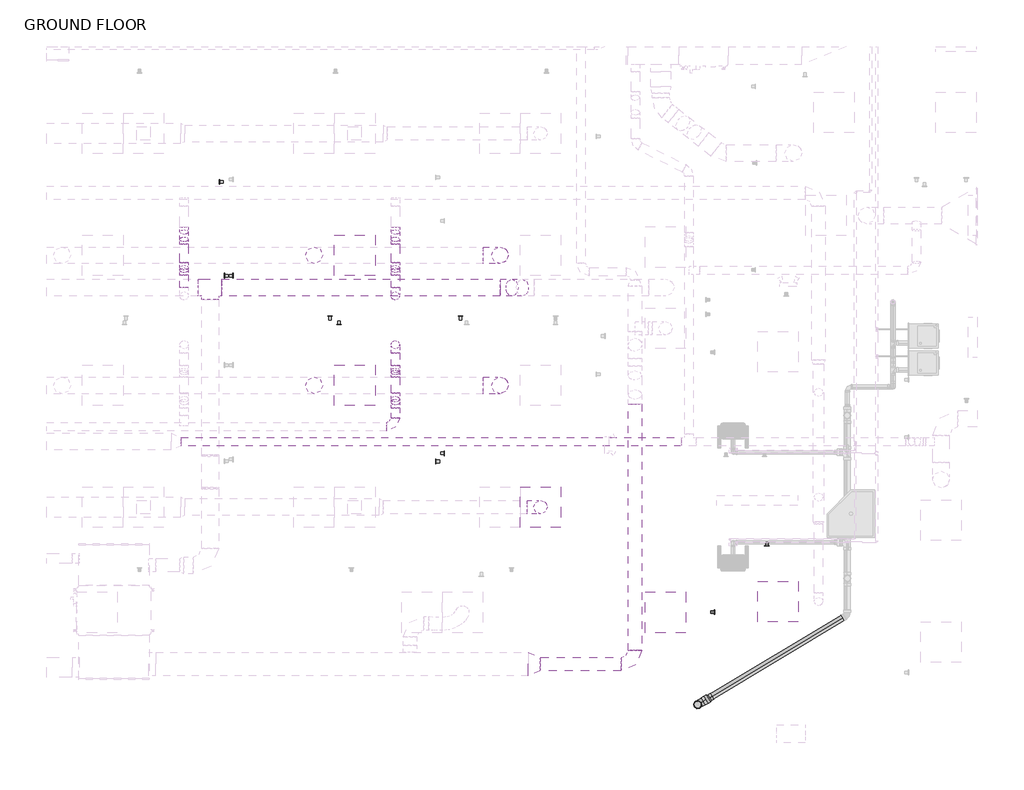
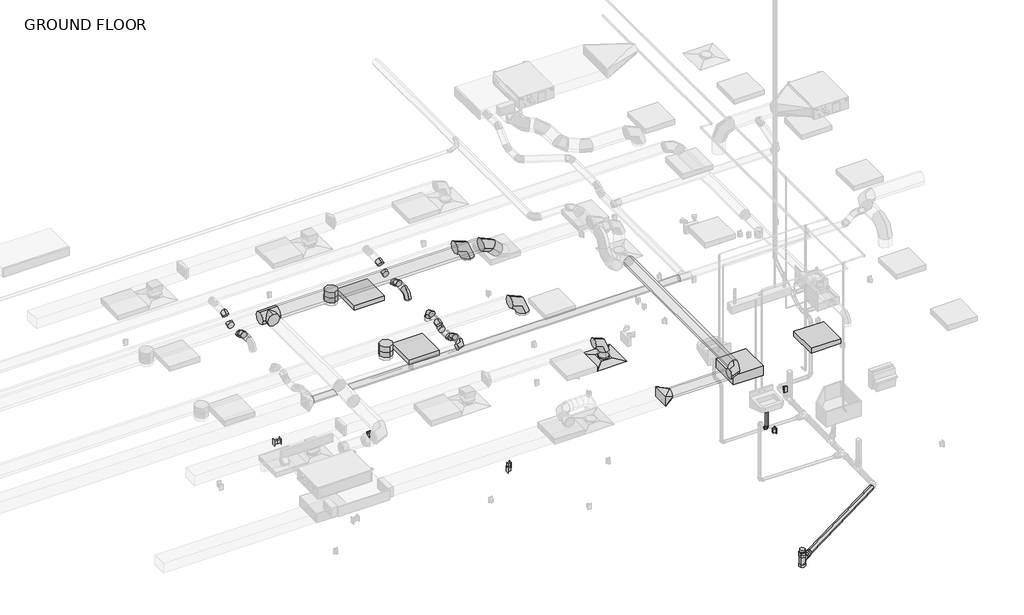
# One storey, part 6 of 22: 25 duct segments, 24 duct fittings, 7 proxies, 4 light fixtures, 4 pipe fittings, 2 electric appliances, 2 pipe segments, 1 air terminal, 1 switching device.
"""IFC4 building model written with IfcOpenShell, lengths in millimetres."""

from ifc_helpers import new_model, si_unit, point, frame, frame_2d, origin, place, context, project, spatial, circle_curve, trimmed, segment, composite_curve, outline, extrude, transform, mapped, element, save
from components import air_terminal_e9020785, duplex_receptacle_countertop_10251bba, rectangular_to_round_transition_angle_45_degree_3a9c6b82, round_elbow_1_d_a253342a, round_elbow_1_d_6fec3262, round_elbow_1_d_c80420c1, round_elbow_1_d_e3dc691b, round_elbow_1_d_ea3dccb8, round_elbow_1_d_538d8ec8, round_elbow_1_d_88736f48, round_takeoff_standard_c386a54e, round_takeoff_standard_c5a1f659, round_tee_standard_9beeffc8, telephone_outlet_data_plain_18c24199, troffer_corner_insert_2x2_3_lamp_emergency_29e3a813, troffer_corner_insert_2x2_3lamp_e67c7f8f, bend_pvc_sch_40_dwv_standard_56513ac6, reducer_pvc_sch_40_dwv_standard_58c00515, reducer_pvc_sch_40_dwv_standard_880e498f, tee_sanitary_pvc_sch_40_dwv_standard_6eba9932

model = new_model("IFC4")

# Units and contexts
model_context = context("Model", 3, world=origin())
ifc_project = project(units=[si_unit("LENGTHUNIT", "METRE", prefix="MILLI")], contexts=[model_context])

# Site, building, storey
site = spatial("IfcSite", under=ifc_project)
building = spatial("IfcBuilding", under=site)
storey = spatial("IfcBuildingStorey", under=building, Name="GROUND FLOOR", Elevation=30480.0)

# Air terminal
placement = place(None, origin())
air_terminal_shape = air_terminal_e9020785(model_context)
element("IfcAirTerminal", 1, ObjectType="Supply Diffuser - Rectangular Face Round Neck - Hosted : 24\"x24\" Face 8\" Neck - Hosted", at=placement, inside=storey, context=model_context, shape_type="MappedRepresentation", body=[
    mapped(air_terminal_shape, transform((8335.3295393, -4228.1054995, 33223.2), x_axis=(0.0, -1.0, 0.0), y_axis=(-1.0, 0.0, 0.0), z_axis=(0.0, 0.0, -1.0))),
])

# Proxies
duplex_receptacle_countertop_shape = duplex_receptacle_countertop_10251bba(model_context)
element("IfcBuildingElementProxy", 2, Name="Duplex Receptacle : Countertop", ObjectType="Duplex Receptacle : Countertop", at=placement, inside=storey, context=model_context, shape_type="MappedRepresentation", body=[
    mapped(duplex_receptacle_countertop_shape, transform((3715.7045393, -751.4804995, 30937.2), x_axis=(0.0, 1.0, 0.0), y_axis=(0.0, 0.0, 1.0), z_axis=(1.0, 0.0, 0.0))),
])
element("IfcBuildingElementProxy", 3, Name="Duplex Receptacle : Countertop", ObjectType="Duplex Receptacle : Countertop", at=placement, inside=storey, context=model_context, shape_type="MappedRepresentation", body=[
    mapped(duplex_receptacle_countertop_shape, transform((3591.8795393, -751.4804995, 30937.2), x_axis=(0.0, -1.0, 0.0), y_axis=(0.0, 0.0, 1.0), z_axis=(-1.0, 0.0, 0.0))),
])
element("IfcBuildingElementProxy", 4, Name="Duplex Receptacle : GFCI", ObjectType="Duplex Receptacle : GFCI", at=placement, inside=storey, context=model_context, shape_type="MappedRepresentation", body=[
    mapped(duplex_receptacle_countertop_shape, transform((11730.8076286, -4809.1304995, 31699.2), x_axis=(1.0, 0.0, 0.0), y_axis=(0.0, 0.0, 1.0), z_axis=(0.0, -1.0, 0.0))),
])
element("IfcBuildingElementProxy", 5, Name="Duplex Receptacle : Standard", ObjectType="Duplex Receptacle : Standard", at=placement, inside=storey, context=model_context, shape_type="MappedRepresentation", body=[
    mapped(duplex_receptacle_countertop_shape, transform((5306.9139298, -1484.9054995, 30937.2), x_axis=(1.0, 0.0, 0.0), y_axis=(0.0, 0.0, 1.0), z_axis=(0.0, -1.0, 0.0))),
])
element("IfcBuildingElementProxy", 6, Name="Duplex Receptacle : Standard", ObjectType="Duplex Receptacle : Standard", at=placement, inside=storey, context=model_context, shape_type="MappedRepresentation", body=[
    mapped(duplex_receptacle_countertop_shape, transform((6763.7045393, -3542.8977984, 30937.2), x_axis=(0.0, -1.0, 0.0), y_axis=(0.0, 0.0, 1.0), z_axis=(-1.0, 0.0, 0.0))),
])
element("IfcBuildingElementProxy", 7, Name="Duplex Receptacle : Standard", ObjectType="Duplex Receptacle : Standard", at=placement, inside=storey, context=model_context, shape_type="MappedRepresentation", body=[
    mapped(duplex_receptacle_countertop_shape, transform((6887.5295393, -3421.6832557, 30937.2), x_axis=(0.0, 1.0, 0.0), y_axis=(0.0, 0.0, 1.0), z_axis=(1.0, 0.0, 0.0))),
])
element("IfcBuildingElementProxy", 8, Name="Duplex Receptacle : Standard", ObjectType="Duplex Receptacle : Standard", at=placement, inside=storey, context=model_context, shape_type="MappedRepresentation", body=[
    mapped(duplex_receptacle_countertop_shape, transform((5174.6798832, -1361.0804995, 30937.2), x_axis=(-1.0, 0.0, 0.0), y_axis=(0.0, 0.0, 1.0), z_axis=(0.0, 1.0, 0.0))),
])

# Duct fittings
rectangular_to_round_transition_angle_45_degree_shape = rectangular_to_round_transition_angle_45_degree_3a9c6b82(model_context)
element("IfcDuctFitting", 9, ObjectType="Rectangular to Round Transition - Angle : 45 Degree", at=placement, inside=storey, context=model_context, shape_type="MappedRepresentation", body=[
    mapped(rectangular_to_round_transition_angle_45_degree_shape, transform((8148.4082034, -6584.4850038, 33877.25), x_axis=(1.0, 0.0, 0.0), y_axis=(0.0, 1.0, 0.0), z_axis=(0.0, 0.0, 1.0))),
])
round_elbow_1_d_shape = round_elbow_1_d_a253342a(model_context)
element("IfcDuctFitting", 10, ObjectType="Round Elbow : 1 D", at=placement, inside=storey, context=model_context, shape_type="MappedRepresentation", body=[
    mapped(round_elbow_1_d_shape, transform((9751.3795393, -6584.4850038, 33877.25), x_axis=(1.0, 0.0, 0.0), y_axis=(0.0, 1.0, 0.0), z_axis=(0.0, 0.0, 1.0))),
])
element("IfcDuctFitting", 11, ObjectType="Round Elbow : 1 D", at=placement, inside=storey, context=model_context, shape_type="MappedRepresentation", body=[
    mapped(round_elbow_1_d_shape, transform((8335.3295393, -4228.1054995, 33604.2), x_axis=(0.0, 0.0, 1.0), y_axis=(-1.0, 0.0, 0.0), z_axis=(0.0, -1.0, 0.0))),
])
round_elbow_1_d_2_shape = round_elbow_1_d_6fec3262(model_context)
element("IfcDuctFitting", 12, ObjectType="Round Elbow : 1 D", at=placement, inside=storey, context=model_context, shape_type="MappedRepresentation", body=[
    mapped(round_elbow_1_d_2_shape, transform((7725.7295393, -2399.3054995, 33617.69375), x_axis=(0.0, 0.0, 1.0), y_axis=(-1.0, 0.0, 0.0), z_axis=(0.0, -1.0, 0.0))),
])
element("IfcDuctFitting", 13, ObjectType="Round Elbow : 1 D", at=placement, inside=storey, context=model_context, shape_type="MappedRepresentation", body=[
    mapped(round_elbow_1_d_2_shape, transform((7725.7295393, -446.6804995, 33617.69375), x_axis=(0.0, 0.0, 1.0), y_axis=(-1.0, 0.0, 0.0), z_axis=(0.0, -1.0, 0.0))),
])
round_elbow_1_d_3_shape = round_elbow_1_d_c80420c1(model_context)
element("IfcDuctFitting", 14, ObjectType="Round Elbow : 1 D", at=placement, inside=storey, context=model_context, shape_type="MappedRepresentation", body=[
    mapped(round_elbow_1_d_3_shape, transform((6154.1045393, -1789.7054995, 33528.0), x_axis=(0.0, 0.0, 1.0), y_axis=(0.0, -1.0, 0.0), z_axis=(1.0, 0.0, 0.0))),
])
element("IfcDuctFitting", 15, ObjectType="Round Elbow : 1 D", at=placement, inside=storey, context=model_context, shape_type="MappedRepresentation", body=[
    mapped(round_elbow_1_d_3_shape, transform((6154.1045393, -1056.2804995, 33477.2), x_axis=(0.0, -1.0, 0.0), y_axis=(0.0, 0.0, -1.0), z_axis=(1.0, 0.0, 0.0))),
])
element("IfcDuctFitting", 16, ObjectType="Round Elbow : 1 D", at=placement, inside=storey, context=model_context, shape_type="MappedRepresentation", body=[
    mapped(round_elbow_1_d_3_shape, transform((6154.1045393, -3019.0145579, 33528.0), x_axis=(1.0, 0.0, 0.0), y_axis=(0.0, 1.0, 0.0), z_axis=(0.0, 0.0, 1.0))),
])
round_elbow_1_d_4_shape = round_elbow_1_d_e3dc691b(model_context)
element("IfcDuctFitting", 17, ObjectType="Round Elbow : 1 D", at=placement, inside=storey, context=model_context, shape_type="MappedRepresentation", body=[
    mapped(round_elbow_1_d_4_shape, transform((6154.1045393, -2571.0260053, 33410.2114474), x_axis=(0.0, 0.7071067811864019, -0.7071067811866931), y_axis=(0.0, 0.7071067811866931, 0.7071067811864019), z_axis=(1.0, 0.0, 0.0))),
])
element("IfcDuctFitting", 18, ObjectType="Round Elbow : 1 D", at=placement, inside=storey, context=model_context, shape_type="MappedRepresentation", body=[
    mapped(round_elbow_1_d_4_shape, transform((6154.1045393, -2688.8145579, 33528.0), x_axis=(0.0, -0.7071067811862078, 0.7071067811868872), y_axis=(0.0, -0.7071067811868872, -0.7071067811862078), z_axis=(1.0, 0.0, 0.0))),
])
round_elbow_1_d_5_shape = round_elbow_1_d_ea3dccb8(model_context)
element("IfcDuctFitting", 19, ObjectType="Round Elbow : 1 D", at=placement, inside=storey, context=model_context, shape_type="MappedRepresentation", body=[
    mapped(round_elbow_1_d_5_shape, transform((7831.7019534, -932.4554995, 33883.6), x_axis=(1.0, 0.0, 0.0), y_axis=(0.0, 0.0, -1.0), z_axis=(0.0, 1.0, 0.0))),
])
round_elbow_1_d_6_shape = round_elbow_1_d_538d8ec8(model_context)
element("IfcDuctFitting", 20, ObjectType="Round Elbow : 1 D", at=placement, inside=storey, context=model_context, shape_type="MappedRepresentation", body=[
    mapped(round_elbow_1_d_6_shape, transform((2982.2795393, -703.4357216, 33477.2), x_axis=(0.0, 1.0, 0.0), y_axis=(0.0, 0.0, -1.0), z_axis=(-1.0, 0.0, 0.0))),
])
element("IfcDuctFitting", 21, ObjectType="Round Elbow : 1 D", at=placement, inside=storey, context=model_context, shape_type="MappedRepresentation", body=[
    mapped(round_elbow_1_d_6_shape, transform((2982.2795393, -599.403412, 33404.3557926), x_axis=(0.0, 0.8191520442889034, -0.5735764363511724), y_axis=(0.0, 0.5735764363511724, 0.8191520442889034), z_axis=(1.0, 0.0, 0.0))),
])
element("IfcDuctFitting", 22, ObjectType="Round Elbow : 1 D", at=placement, inside=storey, context=model_context, shape_type="MappedRepresentation", body=[
    mapped(round_elbow_1_d_6_shape, transform((2982.2795393, -240.3054995, 33404.3557926), x_axis=(0.0, 1.0, 0.0), y_axis=(0.0, 0.0, 1.0), z_axis=(1.0, 0.0, 0.0))),
])
element("IfcDuctFitting", 23, ObjectType="Round Elbow : 1 D", at=placement, inside=storey, context=model_context, shape_type="MappedRepresentation", body=[
    mapped(round_elbow_1_d_6_shape, transform((2982.2795393, -63.7232711, 33528.0), x_axis=(0.0, 0.8191520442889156, 0.5735764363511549), y_axis=(0.0, 0.5735764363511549, -0.8191520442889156), z_axis=(-1.0, 0.0, 0.0))),
])
element("IfcDuctFitting", 24, ObjectType="Round Elbow : 1 D", at=placement, inside=storey, context=model_context, shape_type="MappedRepresentation", body=[
    mapped(round_elbow_1_d_6_shape, transform((6154.1045393, -703.4357216, 33477.2), x_axis=(0.0, 1.0, 0.0), y_axis=(0.0, 0.0, -1.0), z_axis=(-1.0, 0.0, 0.0))),
])
element("IfcDuctFitting", 25, ObjectType="Round Elbow : 1 D", at=placement, inside=storey, context=model_context, shape_type="MappedRepresentation", body=[
    mapped(round_elbow_1_d_6_shape, transform((6154.1045393, -599.403412, 33404.3557926), x_axis=(0.0, 0.8191520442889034, -0.5735764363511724), y_axis=(0.0, 0.5735764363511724, 0.8191520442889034), z_axis=(1.0, 0.0, 0.0))),
])
element("IfcDuctFitting", 26, ObjectType="Round Elbow : 1 D", at=placement, inside=storey, context=model_context, shape_type="MappedRepresentation", body=[
    mapped(round_elbow_1_d_6_shape, transform((6154.1045393, -240.3054995, 33404.3557926), x_axis=(0.0, 1.0, 0.0), y_axis=(0.0, 0.0, 1.0), z_axis=(1.0, 0.0, 0.0))),
])
element("IfcDuctFitting", 27, ObjectType="Round Elbow : 1 D", at=placement, inside=storey, context=model_context, shape_type="MappedRepresentation", body=[
    mapped(round_elbow_1_d_6_shape, transform((6154.1045393, -63.7232711, 33528.0), x_axis=(0.0, 0.8191520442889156, 0.5735764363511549), y_axis=(0.0, 0.5735764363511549, -0.8191520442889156), z_axis=(-1.0, 0.0, 0.0))),
])
element("IfcDuctFitting", 28, ObjectType="Round Elbow : 1 D", at=placement, inside=storey, context=model_context, shape_type="MappedRepresentation", body=[
    mapped(round_elbow_1_d_6_shape, transform((6154.1045393, -2238.2198452, 33410.2114474), x_axis=(0.0, -0.8191520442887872, -0.5735764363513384), y_axis=(0.0, -0.5735764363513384, 0.8191520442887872), z_axis=(-1.0, 0.0, 0.0))),
])
round_elbow_1_d_7_shape = round_elbow_1_d_88736f48(model_context)
element("IfcDuctFitting", 29, ObjectType="Round Elbow : 1 D", at=placement, inside=storey, context=model_context, shape_type="MappedRepresentation", body=[
    mapped(round_elbow_1_d_7_shape, transform((6154.1045393, -2142.5502773, 33477.2), x_axis=(0.0, -1.0, 0.0), y_axis=(0.0, 0.0, 1.0), z_axis=(-1.0, 0.0, 0.0))),
])
round_takeoff_standard_shape = round_takeoff_standard_c386a54e(model_context)
element("IfcDuctFitting", 30, ObjectType="Round Takeoff : Standard", at=placement, inside=storey, context=model_context, shape_type="MappedRepresentation", body=[
    mapped(round_takeoff_standard_shape, transform((4934.9045393, -446.6804995, 33490.69375), x_axis=(0.0, 0.0, -1.0), y_axis=(-1.0, 0.0, 0.0), z_axis=(0.0, 1.0, 0.0))),
])
round_takeoff_standard_2_shape = round_takeoff_standard_c5a1f659(model_context)
element("IfcDuctFitting", 31, ObjectType="Round Takeoff : Standard", at=placement, inside=storey, context=model_context, shape_type="MappedRepresentation", body=[
    mapped(round_takeoff_standard_2_shape, transform((4934.9045393, -2399.3054995, 33490.69375), x_axis=(0.0, 0.0, -1.0), y_axis=(-1.0, 0.0, 0.0), z_axis=(0.0, 1.0, 0.0))),
])
round_tee_standard_shape = round_tee_standard_9beeffc8(model_context)
element("IfcDuctFitting", 32, ObjectType="Round Tee : Standard", at=placement, inside=storey, context=model_context, shape_type="MappedRepresentation", body=[
    mapped(round_tee_standard_shape, transform((3373.2082034, -932.4554995, 33883.6), x_axis=(1.0, 0.0, 0.0), y_axis=(0.0, 1.0, 0.0), z_axis=(0.0, 0.0, 1.0))),
])

# Duct segments
element("IfcDuctSegment", 33, ObjectType="Taps / Short Radius", at=placement, inside=storey, context=model_context, shape_type="SweptSolid", body=[
    extrude(outline(composite_curve([segment(trimmed(circle_curve(frame_2d((-6584.4850038, 33877.25)), 101.6), [point((-6686.0850038, 33877.25))], [point((-6584.4850038, 33978.85))], False, "CARTESIAN"), True, "CONTINUOUS"), segment(trimmed(circle_curve(frame_2d((-6584.4850038, 33877.25)), 101.6), [point((-6584.4850038, 33978.85))], [point((-6482.8850038, 33877.25))], False, "CARTESIAN"), True, "CONTINUOUS"), segment(trimmed(circle_curve(frame_2d((-6584.4850038, 33877.25)), 101.6), [point((-6482.8850038, 33877.25))], [point((-6584.4850038, 33775.65))], False, "CARTESIAN"), True, "CONTINUOUS"), segment(trimmed(circle_curve(frame_2d((-6584.4850038, 33877.25)), 101.6), [point((-6584.4850038, 33775.65))], [point((-6686.0850038, 33877.25))], False, "CARTESIAN"), True, "CONTINUOUS")], self_intersect=False)), frame((8332.3712769, 0.0, 0.0), z_axis=(1.0, 0.0, 0.0), x_axis=(0.0, 1.0, 0.0)), (0.0, 0.0, 1.0), 1215.8082624),
])
element("IfcDuctSegment", 34, ObjectType="Taps / Short Radius", at=placement, inside=storey, context=model_context, shape_type="SweptSolid", body=[
    extrude(outline(composite_curve([segment(trimmed(circle_curve(frame_2d((8335.3295393, -4228.1054995)), 101.6), [point((8335.3295393, -4126.5054995))], [point((8436.9295393, -4228.1054995))], False, "CARTESIAN"), True, "CONTINUOUS"), segment(trimmed(circle_curve(frame_2d((8335.3295393, -4228.1054995)), 101.6), [point((8436.9295393, -4228.1054995))], [point((8335.3295393, -4329.7054995))], False, "CARTESIAN"), True, "CONTINUOUS"), segment(trimmed(circle_curve(frame_2d((8335.3295393, -4228.1054995)), 101.6), [point((8335.3295393, -4329.7054995))], [point((8233.7295393, -4228.1054995))], False, "CARTESIAN"), True, "CONTINUOUS"), segment(trimmed(circle_curve(frame_2d((8335.3295393, -4228.1054995)), 101.6), [point((8233.7295393, -4228.1054995))], [point((8335.3295393, -4126.5054995))], False, "CARTESIAN"), True, "CONTINUOUS")], self_intersect=False)), frame((0.0, 0.0, 33277.175), z_axis=(0.0, 0.0, 1.0), x_axis=(1.0, 0.0, 0.0)), (0.0, 0.0, 1.0), 123.825),
])
element("IfcDuctSegment", 35, ObjectType="Taps / Short Radius", at=placement, inside=storey, context=model_context, shape_type="SweptSolid", body=[
    extrude(outline(composite_curve([segment(trimmed(circle_curve(frame_2d((-932.4554995, 33883.6)), 127.0), [point((-1059.4554995, 33883.6))], [point((-932.4554995, 34010.6))], False, "CARTESIAN"), True, "CONTINUOUS"), segment(trimmed(circle_curve(frame_2d((-932.4554995, 33883.6)), 127.0), [point((-932.4554995, 34010.6))], [point((-805.4554995, 33883.6))], False, "CARTESIAN"), True, "CONTINUOUS"), segment(trimmed(circle_curve(frame_2d((-932.4554995, 33883.6)), 127.0), [point((-805.4554995, 33883.6))], [point((-932.4554995, 33756.6))], False, "CARTESIAN"), True, "CONTINUOUS"), segment(trimmed(circle_curve(frame_2d((-932.4554995, 33883.6)), 127.0), [point((-932.4554995, 33756.6))], [point((-1059.4554995, 33883.6))], False, "CARTESIAN"), True, "CONTINUOUS")], self_intersect=False)), frame((3551.0082034, 0.0, 0.0), z_axis=(1.0, 0.0, 0.0), x_axis=(0.0, 1.0, 0.0)), (0.0, 0.0, 1.0), 4175.4835052),
])
element("IfcDuctSegment", 36, ObjectType="Taps / Short Radius", at=placement, inside=storey, context=model_context, shape_type="SweptSolid", body=[
    extrude(outline(composite_curve([segment(trimmed(circle_curve(frame_2d((0.0, -127.0)), 127.0), [point((0.0, -254.0))], [point((-127.0, -127.0))], False, "CARTESIAN"), True, "CONTINUOUS"), segment(trimmed(circle_curve(frame_2d((0.0, -127.0)), 127.0), [point((-127.0, -127.0))], [point((0.0, 0.0))], False, "CARTESIAN"), True, "CONTINUOUS"), segment(trimmed(circle_curve(frame_2d((0.0, -127.0)), 127.0), [point((0.0, 0.0))], [point((127.0, -127.0))], False, "CARTESIAN"), True, "CONTINUOUS"), segment(trimmed(circle_curve(frame_2d((0.0, -127.0)), 127.0), [point((127.0, -127.0))], [point((0.0, -254.0))], False, "CARTESIAN"), True, "CONTINUOUS")], self_intersect=False)), frame((8062.1070759, -805.4554995, 33653.1948776), z_axis=(-0.7071067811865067, 0.0, 0.7071067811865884), x_axis=(0.7071067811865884, 0.0, 0.7071067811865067)), (0.0, 0.0, 1.0), 220.6318041),
])
element("IfcDuctSegment", 37, ObjectType="Taps / Short Radius", at=placement, inside=storey, context=model_context, shape_type="SweptSolid", body=[
    extrude(outline(composite_curve([segment(trimmed(circle_curve(frame_2d((4934.9045393, -2399.3054995)), 127.0), [point((4807.9045393, -2399.3054995))], [point((4934.9045393, -2272.3054995))], False, "CARTESIAN"), True, "CONTINUOUS"), segment(trimmed(circle_curve(frame_2d((4934.9045393, -2399.3054995)), 127.0), [point((4934.9045393, -2272.3054995))], [point((5061.9045393, -2399.3054995))], False, "CARTESIAN"), True, "CONTINUOUS"), segment(trimmed(circle_curve(frame_2d((4934.9045393, -2399.3054995)), 127.0), [point((5061.9045393, -2399.3054995))], [point((4934.9045393, -2526.3054995))], False, "CARTESIAN"), True, "CONTINUOUS"), segment(trimmed(circle_curve(frame_2d((4934.9045393, -2399.3054995)), 127.0), [point((4934.9045393, -2526.3054995))], [point((4807.9045393, -2399.3054995))], False, "CARTESIAN"), True, "CONTINUOUS")], self_intersect=False)), frame((0.0, 0.0, 33324.8), z_axis=(0.0, 0.0, 1.0), x_axis=(1.0, 0.0, 0.0)), (0.0, 0.0, 1.0), 64.29375),
])
element("IfcDuctSegment", 38, ObjectType="Taps / Short Radius", at=placement, inside=storey, context=model_context, shape_type="SweptSolid", body=[
    extrude(outline(composite_curve([segment(trimmed(circle_curve(frame_2d((7725.7295393, -2399.3054995)), 127.0), [point((7725.7295393, -2272.3054995))], [point((7852.7295393, -2399.3054995))], False, "CARTESIAN"), True, "CONTINUOUS"), segment(trimmed(circle_curve(frame_2d((7725.7295393, -2399.3054995)), 127.0), [point((7852.7295393, -2399.3054995))], [point((7725.7295393, -2526.3054995))], False, "CARTESIAN"), True, "CONTINUOUS"), segment(trimmed(circle_curve(frame_2d((7725.7295393, -2399.3054995)), 127.0), [point((7725.7295393, -2526.3054995))], [point((7598.7295393, -2399.3054995))], False, "CARTESIAN"), True, "CONTINUOUS"), segment(trimmed(circle_curve(frame_2d((7725.7295393, -2399.3054995)), 127.0), [point((7598.7295393, -2399.3054995))], [point((7725.7295393, -2272.3054995))], False, "CARTESIAN"), True, "CONTINUOUS")], self_intersect=False)), frame((0.0, 0.0, 33324.8), z_axis=(0.0, 0.0, 1.0), x_axis=(1.0, 0.0, 0.0)), (0.0, 0.0, 1.0), 38.89375),
])
element("IfcDuctSegment", 39, ObjectType="Taps / Short Radius", at=placement, inside=storey, context=model_context, shape_type="SweptSolid", body=[
    extrude(outline(composite_curve([segment(trimmed(circle_curve(frame_2d((7725.7295393, -446.6804995)), 127.0), [point((7725.7295393, -319.6804995))], [point((7852.7295393, -446.6804995))], False, "CARTESIAN"), True, "CONTINUOUS"), segment(trimmed(circle_curve(frame_2d((7725.7295393, -446.6804995)), 127.0), [point((7852.7295393, -446.6804995))], [point((7725.7295393, -573.6804995))], False, "CARTESIAN"), True, "CONTINUOUS"), segment(trimmed(circle_curve(frame_2d((7725.7295393, -446.6804995)), 127.0), [point((7725.7295393, -573.6804995))], [point((7598.7295393, -446.6804995))], False, "CARTESIAN"), True, "CONTINUOUS"), segment(trimmed(circle_curve(frame_2d((7725.7295393, -446.6804995)), 127.0), [point((7598.7295393, -446.6804995))], [point((7725.7295393, -319.6804995))], False, "CARTESIAN"), True, "CONTINUOUS")], self_intersect=False)), frame((0.0, 0.0, 33324.8), z_axis=(0.0, 0.0, 1.0), x_axis=(1.0, 0.0, 0.0)), (0.0, 0.0, 1.0), 38.89375),
])
element("IfcDuctSegment", 40, ObjectType="Taps / Short Radius", at=placement, inside=storey, context=model_context, shape_type="SweptSolid", body=[
    extrude(outline(composite_curve([segment(trimmed(circle_curve(frame_2d((4934.9045393, -446.6804995)), 127.0), [point((4807.9045393, -446.6804995))], [point((4934.9045393, -319.6804995))], False, "CARTESIAN"), True, "CONTINUOUS"), segment(trimmed(circle_curve(frame_2d((4934.9045393, -446.6804995)), 127.0), [point((4934.9045393, -319.6804995))], [point((5061.9045393, -446.6804995))], False, "CARTESIAN"), True, "CONTINUOUS"), segment(trimmed(circle_curve(frame_2d((4934.9045393, -446.6804995)), 127.0), [point((5061.9045393, -446.6804995))], [point((4934.9045393, -573.6804995))], False, "CARTESIAN"), True, "CONTINUOUS"), segment(trimmed(circle_curve(frame_2d((4934.9045393, -446.6804995)), 127.0), [point((4934.9045393, -573.6804995))], [point((4807.9045393, -446.6804995))], False, "CARTESIAN"), True, "CONTINUOUS")], self_intersect=False)), frame((0.0, 0.0, 33324.8), z_axis=(0.0, 0.0, 1.0), x_axis=(1.0, 0.0, 0.0)), (0.0, 0.0, 1.0), 64.29375),
])
element("IfcDuctSegment", 41, ObjectType="Taps / Short Radius", at=placement, inside=storey, context=model_context, shape_type="SweptSolid", body=[
    extrude(outline(composite_curve([segment(trimmed(circle_curve(frame_2d((-3245.6216457, 33602.867541)), 63.5), [point((-3309.1216457, 33602.867541))], [point((-3245.6216457, 33666.367541))], False, "CARTESIAN"), True, "CONTINUOUS"), segment(trimmed(circle_curve(frame_2d((-3245.6216457, 33602.867541)), 63.5), [point((-3245.6216457, 33666.367541))], [point((-3182.1216457, 33602.867541))], False, "CARTESIAN"), True, "CONTINUOUS"), segment(trimmed(circle_curve(frame_2d((-3245.6216457, 33602.867541)), 63.5), [point((-3182.1216457, 33602.867541))], [point((-3245.6216457, 33539.367541))], False, "CARTESIAN"), True, "CONTINUOUS"), segment(trimmed(circle_curve(frame_2d((-3245.6216457, 33602.867541)), 63.5), [point((-3245.6216457, 33539.367541))], [point((-3309.1216457, 33602.867541))], False, "CARTESIAN"), True, "CONTINUOUS")], self_intersect=False)), frame((2940.5577502, 0.0, 0.0), z_axis=(1.0, 0.0, 0.0), x_axis=(0.0, 1.0, 0.0)), (0.0, 0.0, 1.0), 7505.7),
])
element("IfcDuctSegment", 42, ObjectType="Taps / Short Radius", at=placement, inside=storey, context=model_context, shape_type="SweptSolid", body=[
    extrude(outline(composite_curve([segment(trimmed(circle_curve(frame_2d((6154.1045393, -1789.7054995)), 63.5), [point((6090.6045393, -1789.7054995))], [point((6154.1045393, -1726.2054995))], False, "CARTESIAN"), True, "CONTINUOUS"), segment(trimmed(circle_curve(frame_2d((6154.1045393, -1789.7054995)), 63.5), [point((6154.1045393, -1726.2054995))], [point((6217.6045393, -1789.7054995))], False, "CARTESIAN"), True, "CONTINUOUS"), segment(trimmed(circle_curve(frame_2d((6154.1045393, -1789.7054995)), 63.5), [point((6217.6045393, -1789.7054995))], [point((6154.1045393, -1853.2054995))], False, "CARTESIAN"), True, "CONTINUOUS"), segment(trimmed(circle_curve(frame_2d((6154.1045393, -1789.7054995)), 63.5), [point((6154.1045393, -1853.2054995))], [point((6090.6045393, -1789.7054995))], False, "CARTESIAN"), True, "CONTINUOUS")], self_intersect=False)), frame((0.0, 0.0, 33324.8), z_axis=(0.0, 0.0, 1.0), x_axis=(1.0, 0.0, 0.0)), (0.0, 0.0, 1.0), 76.2),
])
element("IfcDuctSegment", 43, ObjectType="Taps / Short Radius", at=placement, inside=storey, context=model_context, shape_type="SweptSolid", body=[
    extrude(outline(composite_curve([segment(trimmed(circle_curve(frame_2d((33477.2, 2982.2795393)), 63.5), [point((33477.2, 3045.7795393))], [point((33540.7, 2982.2795393))], False, "CARTESIAN"), True, "CONTINUOUS"), segment(trimmed(circle_curve(frame_2d((33477.2, 2982.2795393)), 63.5), [point((33540.7, 2982.2795393))], [point((33477.2, 2918.7795393))], False, "CARTESIAN"), True, "CONTINUOUS"), segment(trimmed(circle_curve(frame_2d((33477.2, 2982.2795393)), 63.5), [point((33477.2, 2918.7795393))], [point((33413.7, 2982.2795393))], False, "CARTESIAN"), True, "CONTINUOUS"), segment(trimmed(circle_curve(frame_2d((33477.2, 2982.2795393)), 63.5), [point((33413.7, 2982.2795393))], [point((33477.2, 3045.7795393))], False, "CARTESIAN"), True, "CONTINUOUS")], self_intersect=False)), frame((0.0, -929.2804995, 0.0), z_axis=(0.0, 1.0, 0.0), x_axis=(0.0, 0.0, 1.0)), (0.0, 0.0, 1.0), 185.8018317),
])
element("IfcDuctSegment", 44, ObjectType="Taps / Short Radius", at=placement, inside=storey, context=model_context, shape_type="SweptSolid", body=[
    extrude(outline(composite_curve([segment(trimmed(circle_curve(frame_2d((0.0, -63.5)), 63.5), [point((63.5, -63.5))], [point((0.0, -127.0000001))], False, "CARTESIAN"), True, "CONTINUOUS"), segment(trimmed(circle_curve(frame_2d((0.0, -63.5)), 63.5), [point((0.0, -127.0000001))], [point((-63.5, -63.5))], False, "CARTESIAN"), True, "CONTINUOUS"), segment(trimmed(circle_curve(frame_2d((0.0, -63.5)), 63.5), [point((-63.5, -63.5))], [point((0.0, 0.0))], False, "CARTESIAN"), True, "CONTINUOUS"), segment(trimmed(circle_curve(frame_2d((0.0, -63.5)), 63.5), [point((0.0, 0.0))], [point((63.5, -63.5))], False, "CARTESIAN"), True, "CONTINUOUS")], self_intersect=False)), frame((2982.2795393, -595.7825695, 33479.3396378), z_axis=(0.0, -0.8191520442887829, 0.5735764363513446), x_axis=(1.0, 0.0, 0.0)), (0.0, 0.0, 1.0), 46.9141076),
])
element("IfcDuctSegment", 45, ObjectType="Taps / Short Radius", at=placement, inside=storey, context=model_context, shape_type="SweptSolid", body=[
    extrude(outline(composite_curve([segment(trimmed(circle_curve(frame_2d((33404.3557926, 2982.2795393)), 63.5), [point((33404.3557926, 3045.7795393))], [point((33467.8557926, 2982.2795393))], False, "CARTESIAN"), True, "CONTINUOUS"), segment(trimmed(circle_curve(frame_2d((33404.3557926, 2982.2795393)), 63.5), [point((33467.8557926, 2982.2795393))], [point((33404.3557926, 2918.7795393))], False, "CARTESIAN"), True, "CONTINUOUS"), segment(trimmed(circle_curve(frame_2d((33404.3557926, 2982.2795393)), 63.5), [point((33404.3557926, 2918.7795393))], [point((33340.8557926, 2982.2795393))], False, "CARTESIAN"), True, "CONTINUOUS"), segment(trimmed(circle_curve(frame_2d((33404.3557926, 2982.2795393)), 63.5), [point((33340.8557926, 2982.2795393))], [point((33404.3557926, 3045.7795393))], False, "CARTESIAN"), True, "CONTINUOUS")], self_intersect=False)), frame((0.0, -559.3604658, 0.0), z_axis=(0.0, 1.0, 0.0), x_axis=(0.0, 0.0, 1.0)), (0.0, 0.0, 1.0), 279.0120202),
])
element("IfcDuctSegment", 46, ObjectType="Taps / Short Radius", at=placement, inside=storey, context=model_context, shape_type="SweptSolid", body=[
    extrude(outline(composite_curve([segment(trimmed(circle_curve(frame_2d((0.0, 63.5)), 63.5), [point((63.5, 63.5))], [point((0.0, 0.0))], False, "CARTESIAN"), True, "CONTINUOUS"), segment(trimmed(circle_curve(frame_2d((0.0, 63.5)), 63.5), [point((0.0, 0.0))], [point((-63.5, 63.5))], False, "CARTESIAN"), True, "CONTINUOUS"), segment(trimmed(circle_curve(frame_2d((0.0, 63.5)), 63.5), [point((-63.5, 63.5))], [point((0.0, 127.0000001))], False, "CARTESIAN"), True, "CONTINUOUS"), segment(trimmed(circle_curve(frame_2d((0.0, 63.5)), 63.5), [point((0.0, 127.0000001))], [point((63.5, 63.5))], False, "CARTESIAN"), True, "CONTINUOUS")], self_intersect=False)), frame((2982.2795393, -243.926342, 33479.3396378), z_axis=(0.0, 0.81915204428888, 0.5735764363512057), x_axis=(1.0, 0.0, 0.0)), (0.0, 0.0, 1.0), 135.4812048),
])
element("IfcDuctSegment", 47, ObjectType="Taps / Short Radius", at=placement, inside=storey, context=model_context, shape_type="SweptSolid", body=[
    extrude(outline(composite_curve([segment(trimmed(circle_curve(frame_2d((6154.1045393, -1056.2804995)), 63.5), [point((6090.6045393, -1056.2804995))], [point((6154.1045393, -992.7804995))], False, "CARTESIAN"), True, "CONTINUOUS"), segment(trimmed(circle_curve(frame_2d((6154.1045393, -1056.2804995)), 63.5), [point((6154.1045393, -992.7804995))], [point((6217.6045393, -1056.2804995))], False, "CARTESIAN"), True, "CONTINUOUS"), segment(trimmed(circle_curve(frame_2d((6154.1045393, -1056.2804995)), 63.5), [point((6217.6045393, -1056.2804995))], [point((6154.1045393, -1119.7804995))], False, "CARTESIAN"), True, "CONTINUOUS"), segment(trimmed(circle_curve(frame_2d((6154.1045393, -1056.2804995)), 63.5), [point((6154.1045393, -1119.7804995))], [point((6090.6045393, -1056.2804995))], False, "CARTESIAN"), True, "CONTINUOUS")], self_intersect=False)), frame((0.0, 0.0, 33324.8), z_axis=(0.0, 0.0, 1.0), x_axis=(1.0, 0.0, 0.0)), (0.0, 0.0, 1.0), 25.4),
])
element("IfcDuctSegment", 48, ObjectType="Taps / Short Radius", at=placement, inside=storey, context=model_context, shape_type="SweptSolid", body=[
    extrude(outline(composite_curve([segment(trimmed(circle_curve(frame_2d((33477.2, 6154.1045393)), 63.5), [point((33477.2, 6217.6045393))], [point((33540.7, 6154.1045393))], False, "CARTESIAN"), True, "CONTINUOUS"), segment(trimmed(circle_curve(frame_2d((33477.2, 6154.1045393)), 63.5), [point((33540.7, 6154.1045393))], [point((33477.2, 6090.6045393))], False, "CARTESIAN"), True, "CONTINUOUS"), segment(trimmed(circle_curve(frame_2d((33477.2, 6154.1045393)), 63.5), [point((33477.2, 6090.6045393))], [point((33413.7, 6154.1045393))], False, "CARTESIAN"), True, "CONTINUOUS"), segment(trimmed(circle_curve(frame_2d((33477.2, 6154.1045393)), 63.5), [point((33413.7, 6154.1045393))], [point((33477.2, 6217.6045393))], False, "CARTESIAN"), True, "CONTINUOUS")], self_intersect=False)), frame((0.0, -929.2804995, 0.0), z_axis=(0.0, 1.0, 0.0), x_axis=(0.0, 0.0, 1.0)), (0.0, 0.0, 1.0), 185.8018317),
])
element("IfcDuctSegment", 49, ObjectType="Taps / Short Radius", at=placement, inside=storey, context=model_context, shape_type="SweptSolid", body=[
    extrude(outline(composite_curve([segment(trimmed(circle_curve(frame_2d((0.0, -63.5)), 63.5), [point((63.5, -63.5))], [point((0.0, -127.0000001))], False, "CARTESIAN"), True, "CONTINUOUS"), segment(trimmed(circle_curve(frame_2d((0.0, -63.5)), 63.5), [point((0.0, -127.0000001))], [point((-63.5, -63.5))], False, "CARTESIAN"), True, "CONTINUOUS"), segment(trimmed(circle_curve(frame_2d((0.0, -63.5)), 63.5), [point((-63.5, -63.5))], [point((0.0, 0.0))], False, "CARTESIAN"), True, "CONTINUOUS"), segment(trimmed(circle_curve(frame_2d((0.0, -63.5)), 63.5), [point((0.0, 0.0))], [point((63.5, -63.5))], False, "CARTESIAN"), True, "CONTINUOUS")], self_intersect=False)), frame((6154.1045393, -595.7825695, 33479.3396378), z_axis=(0.0, -0.8191520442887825, 0.5735764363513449), x_axis=(1.0, 0.0, 0.0)), (0.0, 0.0, 1.0), 46.9141076),
])
element("IfcDuctSegment", 50, ObjectType="Taps / Short Radius", at=placement, inside=storey, context=model_context, shape_type="SweptSolid", body=[
    extrude(outline(composite_curve([segment(trimmed(circle_curve(frame_2d((33404.3557926, 6154.1045393)), 63.5), [point((33404.3557926, 6217.6045393))], [point((33467.8557926, 6154.1045393))], False, "CARTESIAN"), True, "CONTINUOUS"), segment(trimmed(circle_curve(frame_2d((33404.3557926, 6154.1045393)), 63.5), [point((33467.8557926, 6154.1045393))], [point((33404.3557926, 6090.6045393))], False, "CARTESIAN"), True, "CONTINUOUS"), segment(trimmed(circle_curve(frame_2d((33404.3557926, 6154.1045393)), 63.5), [point((33404.3557926, 6090.6045393))], [point((33340.8557926, 6154.1045393))], False, "CARTESIAN"), True, "CONTINUOUS"), segment(trimmed(circle_curve(frame_2d((33404.3557926, 6154.1045393)), 63.5), [point((33340.8557926, 6154.1045393))], [point((33404.3557926, 6217.6045393))], False, "CARTESIAN"), True, "CONTINUOUS")], self_intersect=False)), frame((0.0, -559.3604658, 0.0), z_axis=(0.0, 1.0, 0.0), x_axis=(0.0, 0.0, 1.0)), (0.0, 0.0, 1.0), 279.0120202),
])
element("IfcDuctSegment", 51, ObjectType="Taps / Short Radius", at=placement, inside=storey, context=model_context, shape_type="SweptSolid", body=[
    extrude(outline(composite_curve([segment(trimmed(circle_curve(frame_2d((0.0, 63.5)), 63.5), [point((63.5, 63.5))], [point((0.0, 0.0))], False, "CARTESIAN"), True, "CONTINUOUS"), segment(trimmed(circle_curve(frame_2d((0.0, 63.5)), 63.5), [point((0.0, 0.0))], [point((-63.5, 63.5))], False, "CARTESIAN"), True, "CONTINUOUS"), segment(trimmed(circle_curve(frame_2d((0.0, 63.5)), 63.5), [point((-63.5, 63.5))], [point((0.0, 127.0000001))], False, "CARTESIAN"), True, "CONTINUOUS"), segment(trimmed(circle_curve(frame_2d((0.0, 63.5)), 63.5), [point((0.0, 127.0000001))], [point((63.5, 63.5))], False, "CARTESIAN"), True, "CONTINUOUS")], self_intersect=False)), frame((6154.1045393, -243.926342, 33479.3396378), z_axis=(0.0, 0.8191520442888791, 0.5735764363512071), x_axis=(1.0, 0.0, 0.0)), (0.0, 0.0, 1.0), 135.4812048),
])
element("IfcDuctSegment", 52, ObjectType="Taps / Short Radius", at=placement, inside=storey, context=model_context, shape_type="SweptSolid", body=[
    extrude(outline(composite_curve([segment(trimmed(circle_curve(frame_2d((33477.2, 6154.1045393)), 63.5), [point((33477.2, 6090.6045393))], [point((33413.7, 6154.1045393))], False, "CARTESIAN"), True, "CONTINUOUS"), segment(trimmed(circle_curve(frame_2d((33477.2, 6154.1045393)), 63.5), [point((33413.7, 6154.1045393))], [point((33477.2, 6217.6045393))], False, "CARTESIAN"), True, "CONTINUOUS"), segment(trimmed(circle_curve(frame_2d((33477.2, 6154.1045393)), 63.5), [point((33477.2, 6217.6045393))], [point((33540.7, 6154.1045393))], False, "CARTESIAN"), True, "CONTINUOUS"), segment(trimmed(circle_curve(frame_2d((33477.2, 6154.1045393)), 63.5), [point((33540.7, 6154.1045393))], [point((33477.2, 6090.6045393))], False, "CARTESIAN"), True, "CONTINUOUS")], self_intersect=False)), frame((0.0, -2102.5073311, 0.0), z_axis=(0.0, 1.0, 0.0), x_axis=(0.0, 0.0, 1.0)), (0.0, 0.0, 1.0), 185.8018317),
])
element("IfcDuctSegment", 53, ObjectType="Taps / Short Radius", at=placement, inside=storey, context=model_context, shape_type="SweptSolid", body=[
    extrude(outline(composite_curve([segment(trimmed(circle_curve(frame_2d((0.0, -63.5)), 63.5), [point((-63.5, -63.5))], [point((0.0, 0.0))], False, "CARTESIAN"), True, "CONTINUOUS"), segment(trimmed(circle_curve(frame_2d((0.0, -63.5)), 63.5), [point((0.0, 0.0))], [point((63.5, -63.5))], False, "CARTESIAN"), True, "CONTINUOUS"), segment(trimmed(circle_curve(frame_2d((0.0, -63.5)), 63.5), [point((63.5, -63.5))], [point((0.0, -127.0))], False, "CARTESIAN"), True, "CONTINUOUS"), segment(trimmed(circle_curve(frame_2d((0.0, -63.5)), 63.5), [point((0.0, -127.0))], [point((-63.5, -63.5))], False, "CARTESIAN"), True, "CONTINUOUS")], self_intersect=False)), frame((6154.1045393, -2168.9964802, 33381.162983), z_axis=(0.0, 0.819152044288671, 0.5735764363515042), x_axis=(1.0, 0.0, 0.0)), (0.0, 0.0, 1.0), 36.7050849),
])
element("IfcDuctSegment", 54, ObjectType="Taps / Short Radius", at=placement, inside=storey, context=model_context, shape_type="SweptSolid", body=[
    extrude(outline(composite_curve([segment(trimmed(circle_curve(frame_2d((33528.0, 6154.1045393)), 63.5), [point((33528.0, 6090.6045393))], [point((33464.5, 6154.1045393))], False, "CARTESIAN"), True, "CONTINUOUS"), segment(trimmed(circle_curve(frame_2d((33528.0, 6154.1045393)), 63.5), [point((33464.5, 6154.1045393))], [point((33528.0, 6217.6045393))], False, "CARTESIAN"), True, "CONTINUOUS"), segment(trimmed(circle_curve(frame_2d((33528.0, 6154.1045393)), 63.5), [point((33528.0, 6217.6045393))], [point((33591.5, 6154.1045393))], False, "CARTESIAN"), True, "CONTINUOUS"), segment(trimmed(circle_curve(frame_2d((33528.0, 6154.1045393)), 63.5), [point((33591.5, 6154.1045393))], [point((33528.0, 6090.6045393))], False, "CARTESIAN"), True, "CONTINUOUS")], self_intersect=False)), frame((0.0, -2892.0145579, 0.0), z_axis=(0.0, 1.0, 0.0), x_axis=(0.0, 0.0, 1.0)), (0.0, 0.0, 1.0), 150.5948776),
])
element("IfcDuctSegment", 55, ObjectType="Taps / Short Radius", at=placement, inside=storey, context=model_context, shape_type="SweptSolid", body=[
    extrude(outline(composite_curve([segment(trimmed(circle_curve(frame_2d((0.0, -63.5)), 63.5), [point((63.5, -63.5))], [point((0.0, -127.0))], False, "CARTESIAN"), True, "CONTINUOUS"), segment(trimmed(circle_curve(frame_2d((0.0, -63.5)), 63.5), [point((0.0, -127.0))], [point((-63.5, -63.5))], False, "CARTESIAN"), True, "CONTINUOUS"), segment(trimmed(circle_curve(frame_2d((0.0, -63.5)), 63.5), [point((-63.5, -63.5))], [point((0.0, 0.0))], False, "CARTESIAN"), True, "CONTINUOUS"), segment(trimmed(circle_curve(frame_2d((0.0, -63.5)), 63.5), [point((0.0, 0.0))], [point((63.5, -63.5))], False, "CARTESIAN"), True, "CONTINUOUS")], self_intersect=False)), frame((6154.1045393, -2563.3221635, 33492.3101668), z_axis=(0.0, -0.7071067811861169, 0.7071067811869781), x_axis=(1.0, 0.0, 0.0)), (0.0, 0.0, 1.0), 61.3679237),
])
element("IfcDuctSegment", 56, ObjectType="Taps / Short Radius", at=placement, inside=storey, context=model_context, shape_type="SweptSolid", body=[
    extrude(outline(composite_curve([segment(trimmed(circle_curve(frame_2d((33410.2114474, 6154.1045393)), 63.5), [point((33410.2114474, 6090.6045393))], [point((33346.7114474, 6154.1045393))], False, "CARTESIAN"), True, "CONTINUOUS"), segment(trimmed(circle_curve(frame_2d((33410.2114474, 6154.1045393)), 63.5), [point((33346.7114474, 6154.1045393))], [point((33410.2114474, 6217.6045393))], False, "CARTESIAN"), True, "CONTINUOUS"), segment(trimmed(circle_curve(frame_2d((33410.2114474, 6154.1045393)), 63.5), [point((33410.2114474, 6217.6045393))], [point((33473.7114474, 6154.1045393))], False, "CARTESIAN"), True, "CONTINUOUS"), segment(trimmed(circle_curve(frame_2d((33410.2114474, 6154.1045393)), 63.5), [point((33473.7114474, 6154.1045393))], [point((33410.2114474, 6090.6045393))], False, "CARTESIAN"), True, "CONTINUOUS")], self_intersect=False)), frame((0.0, -2518.4208829, 0.0), z_axis=(0.0, 1.0, 0.0), x_axis=(0.0, 0.0, 1.0)), (0.0, 0.0, 1.0), 240.1580915),
])
element("IfcDuctSegment", 57, ObjectType="Taps / Short Radius", at=placement, inside=storey, context=model_context, shape_type="SweptSolid", body=[
    extrude(outline(composite_curve([segment(trimmed(circle_curve(frame_2d((33877.25, 9751.3795393)), 101.6), [point((33877.25, 9852.9795393))], [point((33978.85, 9751.3795393))], False, "CARTESIAN"), True, "CONTINUOUS"), segment(trimmed(circle_curve(frame_2d((33877.25, 9751.3795393)), 101.6), [point((33978.85, 9751.3795393))], [point((33877.25, 9649.7795393))], False, "CARTESIAN"), True, "CONTINUOUS"), segment(trimmed(circle_curve(frame_2d((33877.25, 9751.3795393)), 101.6), [point((33877.25, 9649.7795393))], [point((33775.65, 9751.3795393))], False, "CARTESIAN"), True, "CONTINUOUS"), segment(trimmed(circle_curve(frame_2d((33877.25, 9751.3795393)), 101.6), [point((33775.65, 9751.3795393))], [point((33877.25, 9852.9795393))], False, "CARTESIAN"), True, "CONTINUOUS")], self_intersect=False)), frame((0.0, -6381.2850038, 0.0), z_axis=(0.0, 1.0, 0.0), x_axis=(0.0, 0.0, 1.0)), (0.0, 0.0, 1.0), 3700.5111665),
])

# Electric appliances
telephone_outlet_data_plain_shape = telephone_outlet_data_plain_18c24199(model_context)
element("IfcElectricAppliance", 58, ObjectType="Telephone Outlet - Data : Plain", at=placement, inside=storey, context=model_context, shape_type="MappedRepresentation", body=[
    mapped(telephone_outlet_data_plain_shape, transform((3517.2670393, -224.9754244, 30079.95), x_axis=(0.0, -1.0, 0.0), y_axis=(0.0, 0.0, 1.0), z_axis=(-1.0, 0.0, 0.0))),
])
element("IfcElectricAppliance", 59, ObjectType="Telephone Outlet - Data : Plain", at=placement, inside=storey, context=model_context, shape_type="MappedRepresentation", body=[
    mapped(telephone_outlet_data_plain_shape, transform((6252.7311264, -1361.0804995, 30079.95), x_axis=(-1.0, 0.0, 0.0), y_axis=(0.0, 0.0, 1.0), z_axis=(0.0, 1.0, 0.0))),
])

# Light fixtures
troffer_corner_insert_2x2_3_lamp_emergency_shape = troffer_corner_insert_2x2_3_lamp_emergency_29e3a813(model_context)
element("IfcLightFixture", 60, ObjectType="Troffer Corner Insert : 2x2 3 Lamp Emergency", at=placement, inside=storey, context=model_context, shape_type="MappedRepresentation", body=[
    mapped(troffer_corner_insert_2x2_3_lamp_emergency_shape, transform((10211.7545393, -5809.2554995, 30784.8), x_axis=(1.0, 0.0, 0.0), y_axis=(0.0, 1.0, 0.0), z_axis=(0.0, 0.0, 1.0))),
])
troffer_corner_insert_2x2_3lamp_shape = troffer_corner_insert_2x2_3lamp_e67c7f8f(model_context)
element("IfcLightFixture", 61, ObjectType="Troffer Corner Insert : 2x2 3Lamp", at=placement, inside=storey, context=model_context, shape_type="MappedRepresentation", body=[
    mapped(troffer_corner_insert_2x2_3lamp_shape, transform((5544.5045393, -446.6804995, 30784.8), x_axis=(1.0, 0.0, 0.0), y_axis=(0.0, 1.0, 0.0), z_axis=(0.0, 0.0, 1.0))),
])
element("IfcLightFixture", 62, ObjectType="Troffer Corner Insert : 2x2 3Lamp", at=placement, inside=storey, context=model_context, shape_type="MappedRepresentation", body=[
    mapped(troffer_corner_insert_2x2_3lamp_shape, transform((5544.5045393, -2399.3054995, 30784.8), x_axis=(1.0, 0.0, 0.0), y_axis=(0.0, 1.0, 0.0), z_axis=(0.0, 0.0, 1.0))),
])
element("IfcLightFixture", 63, ObjectType="Troffer Corner Insert : 2x2 3Lamp", at=placement, inside=storey, context=model_context, shape_type="MappedRepresentation", body=[
    mapped(troffer_corner_insert_2x2_3lamp_shape, transform((11897.6795393, -5647.3304995, 30784.8), x_axis=(1.0, 0.0, 0.0), y_axis=(0.0, 1.0, 0.0), z_axis=(0.0, 0.0, 1.0))),
])

# Pipe fittings
bend_pvc_sch_40_dwv_standard_shape = bend_pvc_sch_40_dwv_standard_56513ac6(model_context)
element("IfcPipeFitting", 64, ObjectType="Bend - PVC - Sch 40 - DWV : Standard", at=placement, inside=storey, context=model_context, shape_type="MappedRepresentation", body=[
    mapped(bend_pvc_sch_40_dwv_standard_shape, transform((11224.5795393, -5012.3304995, 31140.4), x_axis=(0.0, 0.0, -1.0), y_axis=(0.0, 1.0, 0.0), z_axis=(1.0, 0.0, 0.0))),
])
reducer_pvc_sch_40_dwv_standard_shape = reducer_pvc_sch_40_dwv_standard_58c00515(model_context)
element("IfcPipeFitting", 65, ObjectType="Reducer - PVC - Sch 40 - DWV : Standard", at=placement, inside=storey, context=model_context, shape_type="MappedRepresentation", body=[
    mapped(reducer_pvc_sch_40_dwv_standard_shape, transform((10692.7422346, -7196.7161279, 29946.4719504), x_axis=(0.0, 0.0, 1.0), y_axis=(0.8571673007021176, 0.5150380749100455, 0.0), z_axis=(-0.5150380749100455, 0.8571673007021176, 0.0))),
])
reducer_pvc_sch_40_dwv_standard_2_shape = reducer_pvc_sch_40_dwv_standard_880e498f(model_context)
element("IfcPipeFitting", 66, ObjectType="Reducer - PVC - Sch 40 - DWV : Standard", at=placement, inside=storey, context=model_context, shape_type="MappedRepresentation", body=[
    mapped(reducer_pvc_sch_40_dwv_standard_2_shape, transform((10815.2100042, -7123.1300681, 29838.2845585), x_axis=(0.8571672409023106, 0.5150380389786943, 0.00037353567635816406), y_axis=(-0.5150380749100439, 0.8571673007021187, 0.0), z_axis=(-0.0003201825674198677, -0.00019238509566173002, 0.9999999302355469))),
])
tee_sanitary_pvc_sch_40_dwv_standard_shape = tee_sanitary_pvc_sch_40_dwv_standard_6eba9932(model_context)
element("IfcPipeFitting", 67, ObjectType="Tee Sanitary - PVC - Sch 40 - DWV : Standard", at=placement, inside=storey, context=model_context, shape_type="MappedRepresentation", body=[
    mapped(tee_sanitary_pvc_sch_40_dwv_standard_shape, transform((10692.7422346, -7196.7161279, 29838.2311896), x_axis=(0.0, 0.0, 1.0), y_axis=(-0.8571673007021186, -0.5150380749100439, 0.0), z_axis=(0.5150380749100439, -0.8571673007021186, 0.0))),
])

# Pipe segments
element("IfcPipeSegment", 68, ObjectType="PVC - DWV", at=placement, inside=storey, context=model_context, shape_type="SweptSolid", body=[
    extrude(outline(composite_curve([segment(trimmed(circle_curve(frame_2d((1e-07, -44.45)), 44.45), [point((-44.4499914, -44.4223669))], [point((0.0276331, -8.6e-06))], False, "CARTESIAN"), True, "CONTINUOUS"), segment(trimmed(circle_curve(frame_2d((1e-07, -44.45)), 44.45), [point((0.0276331, -8.6e-06))], [point((44.4499914, -44.4776331))], False, "CARTESIAN"), True, "CONTINUOUS"), segment(trimmed(circle_curve(frame_2d((1e-07, -44.45)), 44.45), [point((44.4499914, -44.4776331))], [point((-0.0276331, -88.8999914))], False, "CARTESIAN"), True, "CONTINUOUS"), segment(trimmed(circle_curve(frame_2d((1e-07, -44.45)), 44.45), [point((-0.0276331, -88.8999914))], [point((-44.4499914, -44.4223669))], False, "CARTESIAN"), True, "CONTINUOUS")], self_intersect=False)), frame((10907.9585706, -7070.9188643, 29793.8743052), z_axis=(0.8571672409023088, 0.5150380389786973, 0.00037353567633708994), x_axis=(0.5150381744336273, -0.8571670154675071, -0.0006216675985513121)), (0.0, 0.0, 1.0), 2288.5985155),
])
element("IfcPipeSegment", 69, ObjectType="PVC - DWV", at=placement, inside=storey, context=model_context, shape_type="SweptSolid", body=[
    extrude(outline(composite_curve([segment(trimmed(circle_curve(frame_2d((11224.5795393, -5012.3304995)), 24.209375), [point((11248.7889143, -5012.3304995))], [point((11224.5795393, -5036.5398745))], False, "CARTESIAN"), True, "CONTINUOUS"), segment(trimmed(circle_curve(frame_2d((11224.5795393, -5012.3304995)), 24.209375), [point((11224.5795393, -5036.5398745))], [point((11200.3701643, -5012.3304995))], False, "CARTESIAN"), True, "CONTINUOUS"), segment(trimmed(circle_curve(frame_2d((11224.5795393, -5012.3304995)), 24.209375), [point((11200.3701643, -5012.3304995))], [point((11224.5795393, -4988.1211245))], False, "CARTESIAN"), True, "CONTINUOUS"), segment(trimmed(circle_curve(frame_2d((11224.5795393, -5012.3304995)), 24.209375), [point((11224.5795393, -4988.1211245))], [point((11248.7889143, -5012.3304995))], False, "CARTESIAN"), True, "CONTINUOUS")], self_intersect=False)), frame((0.0, 0.0, 31202.2998), z_axis=(0.0, 0.0, 1.0), x_axis=(1.0, 0.0, 0.0)), (0.0, 0.0, 1.0), 382.6002),
])

# Switching device
element("IfcSwitchingDevice", 70, ObjectType="Lighting Switches : Single Pole", at=placement, inside=storey, context=model_context, shape_type="MappedRepresentation", body=[
    mapped(duplex_receptacle_countertop_shape, transform((10945.1795393, -5805.1713015, 31699.2), x_axis=(0.0, 1.0, 0.0), y_axis=(0.0, 0.0, 1.0), z_axis=(1.0, 0.0, 0.0))),
])

save(model, "model.ifc")
